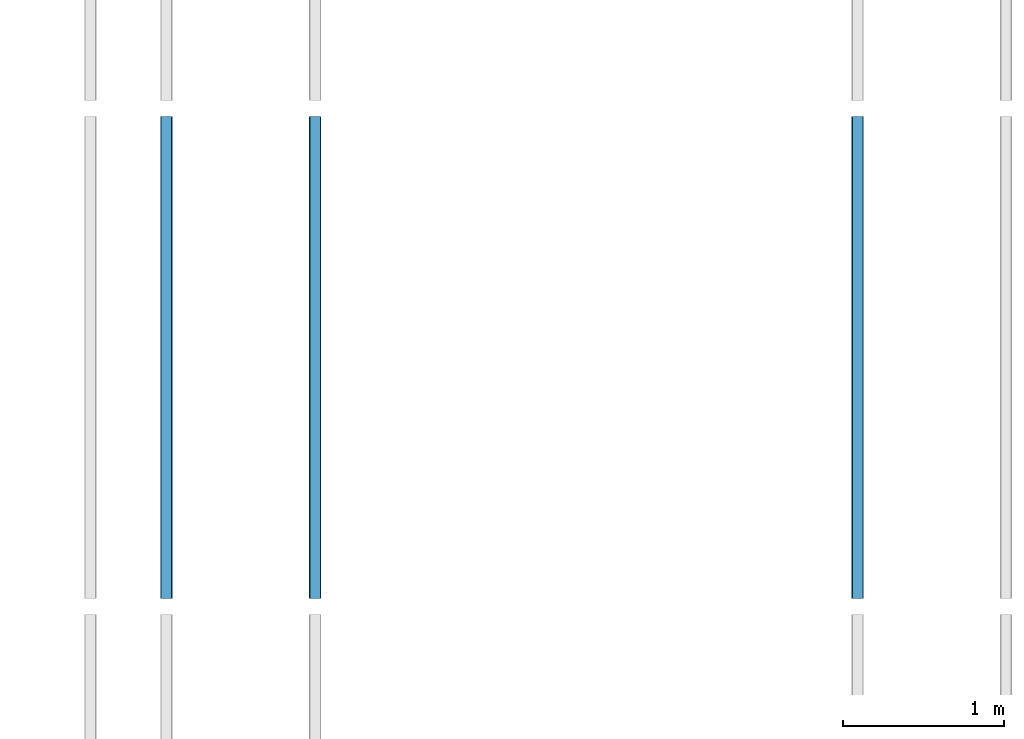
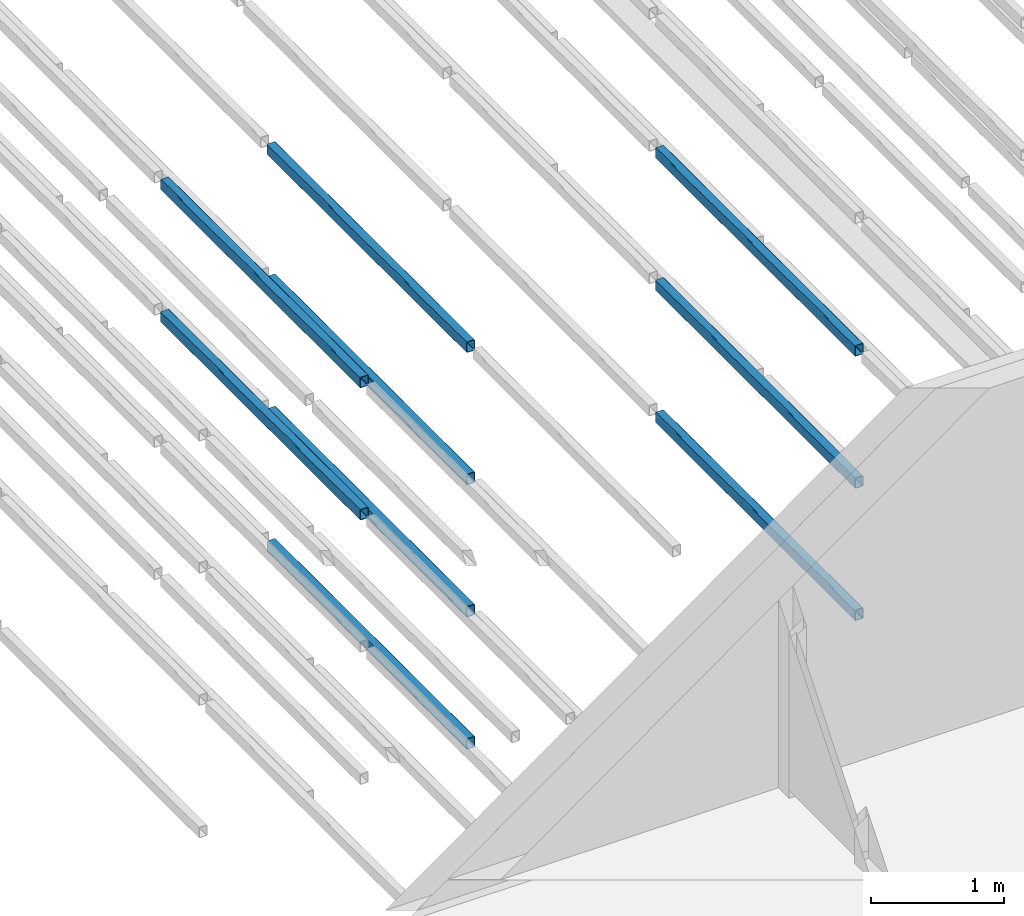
# One storey, part 30 of 290: 9 beams.
"""IFC2X3 building model written with IfcOpenShell, lengths in metres."""

from ifc_helpers import new_model, entity, si_unit, converted_unit, derived_unit, direction, frame, frame_2d, origin, place, context, subcontext, project, spatial, polyline, circle_curve, parameter, trimmed, segment, composite_curve, outline, extrude, material, type_object, element, save


model = new_model("IFC2X3")

# Units and contexts
model_context = context("Model", 3, precision=1e-05, world=origin(), true_north=direction((6.12303176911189e-17, 1.0)))
body_context = subcontext(model_context, "Body", "Model", "MODEL_VIEW")
ifc_project = project(units=[si_unit("LENGTHUNIT", "METRE"), si_unit("AREAUNIT", "SQUARE_METRE"), si_unit("VOLUMEUNIT", "CUBIC_METRE"), converted_unit("PLANEANGLEUNIT", "DEGREE", entity("IfcRatioMeasure", 0.0174532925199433), si_unit("PLANEANGLEUNIT", "RADIAN"), dimensions=[0, 0, 0, 0, 0, 0, 0]), si_unit("MASSUNIT", "GRAM", prefix="KILO"), derived_unit("MASSDENSITYUNIT", [(si_unit("MASSUNIT", "GRAM", prefix="KILO"), 1), (si_unit("LENGTHUNIT", "METRE"), -3)]), derived_unit("MOMENTOFINERTIAUNIT", [(si_unit("LENGTHUNIT", "METRE"), 4)]), si_unit("TIMEUNIT", "SECOND"), si_unit("FREQUENCYUNIT", "HERTZ"), si_unit("THERMODYNAMICTEMPERATUREUNIT", "DEGREE_CELSIUS"), derived_unit("THERMALTRANSMITTANCEUNIT", [(si_unit("MASSUNIT", "GRAM", prefix="KILO"), 1), (si_unit("THERMODYNAMICTEMPERATUREUNIT", "KELVIN"), -1), (si_unit("TIMEUNIT", "SECOND"), -3)]), derived_unit("VOLUMETRICFLOWRATEUNIT", [(si_unit("LENGTHUNIT", "METRE"), 3), (si_unit("TIMEUNIT", "SECOND"), -1)]), si_unit("ELECTRICCURRENTUNIT", "AMPERE"), si_unit("ELECTRICVOLTAGEUNIT", "VOLT"), si_unit("POWERUNIT", "WATT"), si_unit("FORCEUNIT", "NEWTON", prefix="KILO"), si_unit("ILLUMINANCEUNIT", "LUX"), si_unit("LUMINOUSFLUXUNIT", "LUMEN"), si_unit("LUMINOUSINTENSITYUNIT", "CANDELA"), derived_unit("USERDEFINED", [(si_unit("MASSUNIT", "GRAM", prefix="KILO"), -1), (si_unit("LENGTHUNIT", "METRE"), -2), (si_unit("TIMEUNIT", "SECOND"), 3), (si_unit("LUMINOUSFLUXUNIT", "LUMEN"), 1)]), derived_unit("LINEARVELOCITYUNIT", [(si_unit("LENGTHUNIT", "METRE"), 1), (si_unit("TIMEUNIT", "SECOND"), -1)]), si_unit("PRESSUREUNIT", "PASCAL"), derived_unit("USERDEFINED", [(si_unit("LENGTHUNIT", "METRE"), -2), (si_unit("MASSUNIT", "GRAM", prefix="KILO"), 1), (si_unit("TIMEUNIT", "SECOND"), -2)]), derived_unit("LINEARFORCEUNIT", [(si_unit("MASSUNIT", "GRAM", prefix="KILO"), 1), (si_unit("LENGTHUNIT", "METRE"), 1), (si_unit("TIMEUNIT", "SECOND"), -2), (si_unit("LENGTHUNIT", "METRE"), -1)]), derived_unit("PLANARFORCEUNIT", [(si_unit("MASSUNIT", "GRAM", prefix="KILO"), 1), (si_unit("LENGTHUNIT", "METRE"), 1), (si_unit("TIMEUNIT", "SECOND"), -2), (si_unit("LENGTHUNIT", "METRE"), -2)])], contexts=[model_context])

# Site, building, storey
site_placement = place(None, origin())
site = spatial("IfcSite", under=ifc_project, at=site_placement, Name="Default", CompositionType="ELEMENT")
building_placement = place(site_placement, origin())
building = spatial("IfcBuilding", under=site, at=building_placement, CompositionType="ELEMENT")
storey_placement = place(building_placement, frame((0.0, 0.0, 4.0)))
storey = spatial("IfcBuildingStorey", under=building, at=storey_placement, Name="01_OG", CompositionType="ELEMENT", Elevation=4.0)

# Beams
ifc_material = material(Name="Metall - Baustahl S235 blau")
beam_type = type_object("IfcBeamType", Name="RHS Träger (EN 10219-2):RHS 100 x 75 x 5", PredefinedType="NOTDEFINED")
beam_1_placement = place(storey_placement, frame((-183.615111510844, 27.148088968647, 1.23), z_axis=(0.0, 0.0, 1.0), x_axis=(0.0, 1.0, 0.0)))
element("IfcBeam", 1, at=beam_1_placement, inside=storey, type_object=beam_type, material=ifc_material, Name="RHS Träger (EN 10219-2):RHS 100 x 75 x 5", ObjectType="RHS Träger (EN 10219-2):RHS 100 x 75 x 5", context=body_context, shape_type="SweptSolid", body=[
    extrude(outline(composite_curve([segment(trimmed(circle_curve(frame_2d((-0.0274999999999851, -0.0399999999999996), x_axis=(1.0, 0.0)), 0.01), [parameter(180.0)], [parameter(270.0)], True, "PARAMETER"), True, "CONTINUOUS"), segment(polyline([(-0.0274999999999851, -0.0499999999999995), (0.0274999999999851, -0.0499999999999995)]), True, "CONTINUOUS"), segment(trimmed(circle_curve(frame_2d((0.0274999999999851, -0.0399999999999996), x_axis=(1.0, 0.0)), 0.01), [parameter(270.0)], [parameter(5.08888749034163e-14)], True, "PARAMETER"), True, "CONTINUOUS"), segment(polyline([(0.0375000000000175, -0.0399999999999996), (0.0375000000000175, 0.0399999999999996)]), True, "CONTINUOUS"), segment(trimmed(circle_curve(frame_2d((0.0274999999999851, 0.0399999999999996), x_axis=(1.0, 0.0)), 0.01), [parameter(360.0)], [parameter(89.9999999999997)], True, "PARAMETER"), True, "CONTINUOUS"), segment(polyline([(0.0274999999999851, 0.0500000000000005), (-0.0274999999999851, 0.0500000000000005)]), True, "CONTINUOUS"), segment(trimmed(circle_curve(frame_2d((-0.0274999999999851, 0.0399999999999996), x_axis=(1.0, 0.0)), 0.01), [parameter(90.0000000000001)], [parameter(180.0)], True, "PARAMETER"), True, "CONTINUOUS"), segment(polyline([(-0.0374999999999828, 0.0399999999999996), (-0.0374999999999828, -0.0399999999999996)]), True, "CONTINUOUS")], self_intersect=False), holes=[composite_curve([segment(polyline([(0.0274999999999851, -0.0450000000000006), (-0.0274999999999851, -0.0450000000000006)]), True, "CONTINUOUS"), segment(trimmed(circle_curve(frame_2d((-0.0274999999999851, -0.0400000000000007), x_axis=(1.0, 0.0)), 0.005), [parameter(180.0)], [parameter(270.0)], True, "PARAMETER"), False, "CONTINUOUS"), segment(polyline([(-0.0325000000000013, -0.0400000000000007), (-0.0325000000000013, 0.0399999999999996)]), True, "CONTINUOUS"), segment(trimmed(circle_curve(frame_2d((-0.0274999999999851, 0.0399999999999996), x_axis=(1.0, 0.0)), 0.005), [parameter(90.0000000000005)], [parameter(180.0)], True, "PARAMETER"), False, "CONTINUOUS"), segment(polyline([(-0.0274999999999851, 0.0449999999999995), (0.0274999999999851, 0.0449999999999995)]), True, "CONTINUOUS"), segment(trimmed(circle_curve(frame_2d((0.0274999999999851, 0.0399999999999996), x_axis=(1.0, 0.0)), 0.005), [parameter(0.0)], [parameter(90.0000000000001)], True, "PARAMETER"), False, "CONTINUOUS"), segment(polyline([(0.0325000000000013, 0.0399999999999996), (0.0325000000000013, -0.0400000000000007)]), True, "CONTINUOUS"), segment(trimmed(circle_curve(frame_2d((0.0274999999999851, -0.0400000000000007), x_axis=(1.0, 0.0)), 0.005), [parameter(270.0)], [parameter(4.07110999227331e-13)], True, "PARAMETER"), False, "CONTINUOUS")], self_intersect=False)]), frame((0.000100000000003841, 0.0375000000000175, -0.0500000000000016), z_axis=(1.0, 0.0, 0.0), x_axis=(0.0, -1.0, 0.0)), (0.0, 0.0, 1.0), 2.9998),
])
beam_2_placement = place(storey_placement, frame((-183.615111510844, 27.148088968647, 2.445), z_axis=(0.0, 0.0, 1.0), x_axis=(0.0, 1.0, 0.0)))
element("IfcBeam", 2, at=beam_2_placement, inside=storey, type_object=beam_type, material=ifc_material, Name="RHS Träger (EN 10219-2):RHS 100 x 75 x 5", ObjectType="RHS Träger (EN 10219-2):RHS 100 x 75 x 5", context=body_context, shape_type="SweptSolid", body=[
    extrude(outline(composite_curve([segment(trimmed(circle_curve(frame_2d((-0.0274999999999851, -0.0399999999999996), x_axis=(1.0, 0.0)), 0.01), [parameter(180.0)], [parameter(270.0)], True, "PARAMETER"), True, "CONTINUOUS"), segment(polyline([(-0.0274999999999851, -0.0499999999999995), (0.0274999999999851, -0.0499999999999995)]), True, "CONTINUOUS"), segment(trimmed(circle_curve(frame_2d((0.0274999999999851, -0.0399999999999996), x_axis=(1.0, 0.0)), 0.01), [parameter(270.0)], [parameter(5.08888749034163e-14)], True, "PARAMETER"), True, "CONTINUOUS"), segment(polyline([(0.0375000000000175, -0.0399999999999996), (0.0375000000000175, 0.0399999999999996)]), True, "CONTINUOUS"), segment(trimmed(circle_curve(frame_2d((0.0274999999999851, 0.0399999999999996), x_axis=(1.0, 0.0)), 0.01), [parameter(360.0)], [parameter(89.9999999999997)], True, "PARAMETER"), True, "CONTINUOUS"), segment(polyline([(0.0274999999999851, 0.0500000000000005), (-0.0274999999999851, 0.0500000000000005)]), True, "CONTINUOUS"), segment(trimmed(circle_curve(frame_2d((-0.0274999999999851, 0.0399999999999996), x_axis=(1.0, 0.0)), 0.01), [parameter(90.0000000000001)], [parameter(180.0)], True, "PARAMETER"), True, "CONTINUOUS"), segment(polyline([(-0.0374999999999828, 0.0399999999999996), (-0.0374999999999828, -0.0399999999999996)]), True, "CONTINUOUS")], self_intersect=False), holes=[composite_curve([segment(polyline([(0.0274999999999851, -0.0450000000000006), (-0.0274999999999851, -0.0450000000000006)]), True, "CONTINUOUS"), segment(trimmed(circle_curve(frame_2d((-0.0274999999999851, -0.0400000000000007), x_axis=(1.0, 0.0)), 0.005), [parameter(180.0)], [parameter(270.0)], True, "PARAMETER"), False, "CONTINUOUS"), segment(polyline([(-0.0325000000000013, -0.0400000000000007), (-0.0325000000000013, 0.0399999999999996)]), True, "CONTINUOUS"), segment(trimmed(circle_curve(frame_2d((-0.0274999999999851, 0.0399999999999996), x_axis=(1.0, 0.0)), 0.005), [parameter(90.0000000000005)], [parameter(180.0)], True, "PARAMETER"), False, "CONTINUOUS"), segment(polyline([(-0.0274999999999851, 0.0449999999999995), (0.0274999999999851, 0.0449999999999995)]), True, "CONTINUOUS"), segment(trimmed(circle_curve(frame_2d((0.0274999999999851, 0.0399999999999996), x_axis=(1.0, 0.0)), 0.005), [parameter(0.0)], [parameter(90.0000000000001)], True, "PARAMETER"), False, "CONTINUOUS"), segment(polyline([(0.0325000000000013, 0.0399999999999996), (0.0325000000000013, -0.0400000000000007)]), True, "CONTINUOUS"), segment(trimmed(circle_curve(frame_2d((0.0274999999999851, -0.0400000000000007), x_axis=(1.0, 0.0)), 0.005), [parameter(270.0)], [parameter(4.07110999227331e-13)], True, "PARAMETER"), False, "CONTINUOUS")], self_intersect=False)]), frame((0.000100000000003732, 0.0375000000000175, -0.0500000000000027), z_axis=(1.0, 0.0, 0.0), x_axis=(0.0, -1.0, 0.0)), (0.0, 0.0, 1.0), 2.9998),
])
beam_3_placement = place(storey_placement, frame((-182.765111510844, 27.148088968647, -1.2), z_axis=(0.0, 0.0, 1.0), x_axis=(0.0, 1.0, 0.0)))
element("IfcBeam", 3, at=beam_3_placement, inside=storey, type_object=beam_type, material=ifc_material, Name="RHS Träger (EN 10219-2):RHS 100 x 75 x 5", ObjectType="RHS Träger (EN 10219-2):RHS 100 x 75 x 5", context=body_context, shape_type="SweptSolid", body=[
    extrude(outline(composite_curve([segment(polyline([(-0.0400000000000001, -0.0374999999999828), (0.0400000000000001, -0.0374999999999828)]), True, "CONTINUOUS"), segment(trimmed(circle_curve(frame_2d((0.0400000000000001, -0.0274999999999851), x_axis=(0.0, 1.0)), 0.01), [parameter(180.0)], [parameter(270.0)], True, "PARAMETER"), True, "CONTINUOUS"), segment(polyline([(0.05, -0.0274999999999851), (0.05, 0.0274999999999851)]), True, "CONTINUOUS"), segment(trimmed(circle_curve(frame_2d((0.0400000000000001, 0.0274999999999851), x_axis=(0.0, 1.0)), 0.01), [parameter(270.0)], [parameter(4.07110999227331e-13)], True, "PARAMETER"), True, "CONTINUOUS"), segment(polyline([(0.0400000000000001, 0.0375000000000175), (-0.0400000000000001, 0.0375000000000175)]), True, "CONTINUOUS"), segment(trimmed(circle_curve(frame_2d((-0.0400000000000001, 0.0274999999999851), x_axis=(0.0, 1.0)), 0.01), [parameter(360.0)], [parameter(90.0000000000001)], True, "PARAMETER"), True, "CONTINUOUS"), segment(polyline([(-0.05, 0.0274999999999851), (-0.05, -0.0274999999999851)]), True, "CONTINUOUS"), segment(trimmed(circle_curve(frame_2d((-0.0400000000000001, -0.0274999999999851), x_axis=(0.0, 1.0)), 0.01), [parameter(90.0000000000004)], [parameter(180.0)], True, "PARAMETER"), True, "CONTINUOUS")], self_intersect=False), holes=[composite_curve([segment(trimmed(circle_curve(frame_2d((-0.0400000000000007, 0.0274999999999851), x_axis=(0.0, 1.0)), 0.005), [parameter(360.0)], [parameter(89.9999999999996)], True, "PARAMETER"), False, "CONTINUOUS"), segment(polyline([(-0.0400000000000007, 0.0325000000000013), (0.039999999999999, 0.0325000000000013)]), True, "CONTINUOUS"), segment(trimmed(circle_curve(frame_2d((0.039999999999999, 0.0274999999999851), x_axis=(0.0, 1.0)), 0.005), [parameter(270.0)], [parameter(0.0)], True, "PARAMETER"), False, "CONTINUOUS"), segment(polyline([(0.044999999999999, 0.0274999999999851), (0.044999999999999, -0.0274999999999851)]), True, "CONTINUOUS"), segment(trimmed(circle_curve(frame_2d((0.039999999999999, -0.0274999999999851), x_axis=(0.0, 1.0)), 0.005), [parameter(180.0)], [parameter(269.999999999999)], True, "PARAMETER"), False, "CONTINUOUS"), segment(polyline([(0.039999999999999, -0.0325000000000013), (-0.0400000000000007, -0.0325000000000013)]), True, "CONTINUOUS"), segment(trimmed(circle_curve(frame_2d((-0.0400000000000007, -0.0274999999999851), x_axis=(0.0, 1.0)), 0.005), [parameter(90.0000000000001)], [parameter(180.0)], True, "PARAMETER"), False, "CONTINUOUS"), segment(polyline([(-0.0450000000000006, -0.0274999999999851), (-0.0450000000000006, 0.0274999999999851)]), True, "CONTINUOUS")], self_intersect=False)]), frame((0.000100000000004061, -0.0375000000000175, -0.0500000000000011), z_axis=(1.0, 0.0, 0.0), x_axis=(0.0, 0.0, -1.0)), (0.0, 0.0, 1.0), 2.9998),
])
beam_4_placement = place(storey_placement, frame((-182.765111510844, 27.148088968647, 0.0150000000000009), z_axis=(0.0, 0.0, 1.0), x_axis=(0.0, 1.0, 0.0)))
element("IfcBeam", 4, at=beam_4_placement, inside=storey, type_object=beam_type, material=ifc_material, Name="RHS Träger (EN 10219-2):RHS 100 x 75 x 5", ObjectType="RHS Träger (EN 10219-2):RHS 100 x 75 x 5", context=body_context, shape_type="SweptSolid", body=[
    extrude(outline(composite_curve([segment(polyline([(-0.0400000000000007, -0.0374999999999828), (0.0399999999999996, -0.0374999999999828)]), True, "CONTINUOUS"), segment(trimmed(circle_curve(frame_2d((0.0399999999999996, -0.0274999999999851), x_axis=(0.0, 1.0)), 0.01), [parameter(180.0)], [parameter(270.0)], True, "PARAMETER"), True, "CONTINUOUS"), segment(polyline([(0.0499999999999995, -0.0274999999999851), (0.0499999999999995, 0.0274999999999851)]), True, "CONTINUOUS"), segment(trimmed(circle_curve(frame_2d((0.0399999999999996, 0.0274999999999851), x_axis=(0.0, 1.0)), 0.01), [parameter(270.0)], [parameter(4.07110999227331e-13)], True, "PARAMETER"), True, "CONTINUOUS"), segment(polyline([(0.0399999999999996, 0.0375000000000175), (-0.0400000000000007, 0.0375000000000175)]), True, "CONTINUOUS"), segment(trimmed(circle_curve(frame_2d((-0.0400000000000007, 0.0274999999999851), x_axis=(0.0, 1.0)), 0.01), [parameter(360.0)], [parameter(90.0000000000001)], True, "PARAMETER"), True, "CONTINUOUS"), segment(polyline([(-0.0500000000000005, 0.0274999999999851), (-0.0500000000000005, -0.0274999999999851)]), True, "CONTINUOUS"), segment(trimmed(circle_curve(frame_2d((-0.0400000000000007, -0.0274999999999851), x_axis=(0.0, 1.0)), 0.01), [parameter(90.0000000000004)], [parameter(180.0)], True, "PARAMETER"), True, "CONTINUOUS")], self_intersect=False), holes=[composite_curve([segment(trimmed(circle_curve(frame_2d((-0.0400000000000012, 0.0274999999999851), x_axis=(0.0, 1.0)), 0.005), [parameter(360.0)], [parameter(89.9999999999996)], True, "PARAMETER"), False, "CONTINUOUS"), segment(polyline([(-0.0400000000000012, 0.0325000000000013), (0.0399999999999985, 0.0325000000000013)]), True, "CONTINUOUS"), segment(trimmed(circle_curve(frame_2d((0.0399999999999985, 0.0274999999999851), x_axis=(0.0, 1.0)), 0.005), [parameter(270.0)], [parameter(0.0)], True, "PARAMETER"), False, "CONTINUOUS"), segment(polyline([(0.0449999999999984, 0.0274999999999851), (0.0449999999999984, -0.0274999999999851)]), True, "CONTINUOUS"), segment(trimmed(circle_curve(frame_2d((0.0399999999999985, -0.0274999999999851), x_axis=(0.0, 1.0)), 0.005), [parameter(180.0)], [parameter(269.999999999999)], True, "PARAMETER"), False, "CONTINUOUS"), segment(polyline([(0.0399999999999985, -0.0325000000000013), (-0.0400000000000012, -0.0325000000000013)]), True, "CONTINUOUS"), segment(trimmed(circle_curve(frame_2d((-0.0400000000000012, -0.0274999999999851), x_axis=(0.0, 1.0)), 0.005), [parameter(90.0000000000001)], [parameter(180.0)], True, "PARAMETER"), False, "CONTINUOUS"), segment(polyline([(-0.0450000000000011, -0.0274999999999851), (-0.0450000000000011, 0.0274999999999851)]), True, "CONTINUOUS")], self_intersect=False)]), frame((0.000100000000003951, -0.0375000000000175, -0.0500000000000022), z_axis=(1.0, 0.0, 0.0), x_axis=(0.0, 0.0, -1.0)), (0.0, 0.0, 1.0), 2.9998),
])
beam_5_placement = place(storey_placement, frame((-182.765111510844, 27.148088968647, 1.23), z_axis=(0.0, 0.0, 1.0), x_axis=(0.0, 1.0, 0.0)))
element("IfcBeam", 5, at=beam_5_placement, inside=storey, type_object=beam_type, material=ifc_material, Name="RHS Träger (EN 10219-2):RHS 100 x 75 x 5", ObjectType="RHS Träger (EN 10219-2):RHS 100 x 75 x 5", context=body_context, shape_type="SweptSolid", body=[
    extrude(outline(composite_curve([segment(polyline([(-0.0399999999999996, -0.0374999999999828), (0.0399999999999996, -0.0374999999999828)]), True, "CONTINUOUS"), segment(trimmed(circle_curve(frame_2d((0.0399999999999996, -0.0274999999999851), x_axis=(0.0, 1.0)), 0.01), [parameter(180.0)], [parameter(270.0)], True, "PARAMETER"), True, "CONTINUOUS"), segment(polyline([(0.0500000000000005, -0.0274999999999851), (0.0500000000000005, 0.0274999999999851)]), True, "CONTINUOUS"), segment(trimmed(circle_curve(frame_2d((0.0399999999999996, 0.0274999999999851), x_axis=(0.0, 1.0)), 0.01), [parameter(270.0)], [parameter(4.07110999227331e-13)], True, "PARAMETER"), True, "CONTINUOUS"), segment(polyline([(0.0399999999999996, 0.0375000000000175), (-0.0399999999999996, 0.0375000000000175)]), True, "CONTINUOUS"), segment(trimmed(circle_curve(frame_2d((-0.0399999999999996, 0.0274999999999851), x_axis=(0.0, 1.0)), 0.01), [parameter(360.0)], [parameter(90.0000000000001)], True, "PARAMETER"), True, "CONTINUOUS"), segment(polyline([(-0.0499999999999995, 0.0274999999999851), (-0.0499999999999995, -0.0274999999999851)]), True, "CONTINUOUS"), segment(trimmed(circle_curve(frame_2d((-0.0399999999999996, -0.0274999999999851), x_axis=(0.0, 1.0)), 0.01), [parameter(90.0000000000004)], [parameter(180.0)], True, "PARAMETER"), True, "CONTINUOUS")], self_intersect=False), holes=[composite_curve([segment(trimmed(circle_curve(frame_2d((-0.0400000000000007, 0.0274999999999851), x_axis=(0.0, 1.0)), 0.005), [parameter(360.0)], [parameter(89.9999999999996)], True, "PARAMETER"), False, "CONTINUOUS"), segment(polyline([(-0.0400000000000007, 0.0325000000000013), (0.0399999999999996, 0.0325000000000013)]), True, "CONTINUOUS"), segment(trimmed(circle_curve(frame_2d((0.0399999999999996, 0.0274999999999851), x_axis=(0.0, 1.0)), 0.005), [parameter(270.0)], [parameter(0.0)], True, "PARAMETER"), False, "CONTINUOUS"), segment(polyline([(0.0449999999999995, 0.0274999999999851), (0.0449999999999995, -0.0274999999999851)]), True, "CONTINUOUS"), segment(trimmed(circle_curve(frame_2d((0.0399999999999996, -0.0274999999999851), x_axis=(0.0, 1.0)), 0.005), [parameter(180.0)], [parameter(269.999999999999)], True, "PARAMETER"), False, "CONTINUOUS"), segment(polyline([(0.0399999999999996, -0.0325000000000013), (-0.0400000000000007, -0.0325000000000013)]), True, "CONTINUOUS"), segment(trimmed(circle_curve(frame_2d((-0.0400000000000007, -0.0274999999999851), x_axis=(0.0, 1.0)), 0.005), [parameter(90.0000000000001)], [parameter(180.0)], True, "PARAMETER"), False, "CONTINUOUS"), segment(polyline([(-0.0450000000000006, -0.0274999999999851), (-0.0450000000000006, 0.0274999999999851)]), True, "CONTINUOUS")], self_intersect=False)]), frame((0.000100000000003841, -0.0375000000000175, -0.0500000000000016), z_axis=(1.0, 0.0, 0.0), x_axis=(0.0, 0.0, -1.0)), (0.0, 0.0, 1.0), 2.9998),
])
beam_6_placement = place(storey_placement, frame((-182.765111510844, 27.148088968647, 2.445), z_axis=(0.0, 0.0, 1.0), x_axis=(0.0, 1.0, 0.0)))
element("IfcBeam", 6, at=beam_6_placement, inside=storey, type_object=beam_type, material=ifc_material, Name="RHS Träger (EN 10219-2):RHS 100 x 75 x 5", ObjectType="RHS Träger (EN 10219-2):RHS 100 x 75 x 5", context=body_context, shape_type="SweptSolid", body=[
    extrude(outline(composite_curve([segment(polyline([(-0.0399999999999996, -0.0374999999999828), (0.0399999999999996, -0.0374999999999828)]), True, "CONTINUOUS"), segment(trimmed(circle_curve(frame_2d((0.0399999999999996, -0.0274999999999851), x_axis=(0.0, 1.0)), 0.01), [parameter(180.0)], [parameter(270.0)], True, "PARAMETER"), True, "CONTINUOUS"), segment(polyline([(0.0500000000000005, -0.0274999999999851), (0.0500000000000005, 0.0274999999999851)]), True, "CONTINUOUS"), segment(trimmed(circle_curve(frame_2d((0.0399999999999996, 0.0274999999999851), x_axis=(0.0, 1.0)), 0.01), [parameter(270.0)], [parameter(4.07110999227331e-13)], True, "PARAMETER"), True, "CONTINUOUS"), segment(polyline([(0.0399999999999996, 0.0375000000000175), (-0.0399999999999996, 0.0375000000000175)]), True, "CONTINUOUS"), segment(trimmed(circle_curve(frame_2d((-0.0399999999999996, 0.0274999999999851), x_axis=(0.0, 1.0)), 0.01), [parameter(360.0)], [parameter(90.0000000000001)], True, "PARAMETER"), True, "CONTINUOUS"), segment(polyline([(-0.0499999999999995, 0.0274999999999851), (-0.0499999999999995, -0.0274999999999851)]), True, "CONTINUOUS"), segment(trimmed(circle_curve(frame_2d((-0.0399999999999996, -0.0274999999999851), x_axis=(0.0, 1.0)), 0.01), [parameter(90.0000000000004)], [parameter(180.0)], True, "PARAMETER"), True, "CONTINUOUS")], self_intersect=False), holes=[composite_curve([segment(trimmed(circle_curve(frame_2d((-0.0400000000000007, 0.0274999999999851), x_axis=(0.0, 1.0)), 0.005), [parameter(360.0)], [parameter(89.9999999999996)], True, "PARAMETER"), False, "CONTINUOUS"), segment(polyline([(-0.0400000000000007, 0.0325000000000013), (0.0399999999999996, 0.0325000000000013)]), True, "CONTINUOUS"), segment(trimmed(circle_curve(frame_2d((0.0399999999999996, 0.0274999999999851), x_axis=(0.0, 1.0)), 0.005), [parameter(270.0)], [parameter(0.0)], True, "PARAMETER"), False, "CONTINUOUS"), segment(polyline([(0.0449999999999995, 0.0274999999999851), (0.0449999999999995, -0.0274999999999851)]), True, "CONTINUOUS"), segment(trimmed(circle_curve(frame_2d((0.0399999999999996, -0.0274999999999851), x_axis=(0.0, 1.0)), 0.005), [parameter(180.0)], [parameter(269.999999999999)], True, "PARAMETER"), False, "CONTINUOUS"), segment(polyline([(0.0399999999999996, -0.0325000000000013), (-0.0400000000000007, -0.0325000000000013)]), True, "CONTINUOUS"), segment(trimmed(circle_curve(frame_2d((-0.0400000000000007, -0.0274999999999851), x_axis=(0.0, 1.0)), 0.005), [parameter(90.0000000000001)], [parameter(180.0)], True, "PARAMETER"), False, "CONTINUOUS"), segment(polyline([(-0.0450000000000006, -0.0274999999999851), (-0.0450000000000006, 0.0274999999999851)]), True, "CONTINUOUS")], self_intersect=False)]), frame((0.000100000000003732, -0.0375000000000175, -0.0500000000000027), z_axis=(1.0, 0.0, 0.0), x_axis=(0.0, 0.0, -1.0)), (0.0, 0.0, 1.0), 2.9998),
])
beam_7_placement = place(storey_placement, frame((-179.315111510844, 27.148088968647, -1.2), z_axis=(0.0, 0.0, 1.0), x_axis=(0.0, 1.0, 0.0)))
element("IfcBeam", 7, at=beam_7_placement, inside=storey, type_object=beam_type, material=ifc_material, Name="RHS Träger (EN 10219-2):RHS 100 x 75 x 5", ObjectType="RHS Träger (EN 10219-2):RHS 100 x 75 x 5", context=body_context, shape_type="SweptSolid", body=[
    extrude(outline(composite_curve([segment(trimmed(circle_curve(frame_2d((-0.0274999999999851, -0.0400000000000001), x_axis=(1.0, 0.0)), 0.01), [parameter(180.0)], [parameter(270.0)], True, "PARAMETER"), True, "CONTINUOUS"), segment(polyline([(-0.0274999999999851, -0.05), (0.0274999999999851, -0.05)]), True, "CONTINUOUS"), segment(trimmed(circle_curve(frame_2d((0.0274999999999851, -0.0400000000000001), x_axis=(1.0, 0.0)), 0.01), [parameter(270.0)], [parameter(5.08888749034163e-14)], True, "PARAMETER"), True, "CONTINUOUS"), segment(polyline([(0.0375000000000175, -0.0400000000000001), (0.0375000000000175, 0.0400000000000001)]), True, "CONTINUOUS"), segment(trimmed(circle_curve(frame_2d((0.0274999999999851, 0.0400000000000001), x_axis=(1.0, 0.0)), 0.01), [parameter(360.0)], [parameter(89.9999999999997)], True, "PARAMETER"), True, "CONTINUOUS"), segment(polyline([(0.0274999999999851, 0.05), (-0.0274999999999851, 0.05)]), True, "CONTINUOUS"), segment(trimmed(circle_curve(frame_2d((-0.0274999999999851, 0.0400000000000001), x_axis=(1.0, 0.0)), 0.01), [parameter(90.0000000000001)], [parameter(180.0)], True, "PARAMETER"), True, "CONTINUOUS"), segment(polyline([(-0.0374999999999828, 0.0400000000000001), (-0.0374999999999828, -0.0400000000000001)]), True, "CONTINUOUS")], self_intersect=False), holes=[composite_curve([segment(polyline([(0.0274999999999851, -0.0450000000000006), (-0.0274999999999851, -0.0450000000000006)]), True, "CONTINUOUS"), segment(trimmed(circle_curve(frame_2d((-0.0274999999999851, -0.0400000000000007), x_axis=(1.0, 0.0)), 0.005), [parameter(180.0)], [parameter(270.0)], True, "PARAMETER"), False, "CONTINUOUS"), segment(polyline([(-0.0325000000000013, -0.0400000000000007), (-0.0325000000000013, 0.039999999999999)]), True, "CONTINUOUS"), segment(trimmed(circle_curve(frame_2d((-0.0274999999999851, 0.039999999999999), x_axis=(1.0, 0.0)), 0.005), [parameter(90.0000000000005)], [parameter(180.0)], True, "PARAMETER"), False, "CONTINUOUS"), segment(polyline([(-0.0274999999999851, 0.044999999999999), (0.0274999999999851, 0.044999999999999)]), True, "CONTINUOUS"), segment(trimmed(circle_curve(frame_2d((0.0274999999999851, 0.039999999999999), x_axis=(1.0, 0.0)), 0.005), [parameter(0.0)], [parameter(90.0000000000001)], True, "PARAMETER"), False, "CONTINUOUS"), segment(polyline([(0.0325000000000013, 0.039999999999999), (0.0325000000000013, -0.0400000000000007)]), True, "CONTINUOUS"), segment(trimmed(circle_curve(frame_2d((0.0274999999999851, -0.0400000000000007), x_axis=(1.0, 0.0)), 0.005), [parameter(270.0)], [parameter(4.07110999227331e-13)], True, "PARAMETER"), False, "CONTINUOUS")], self_intersect=False)]), frame((9.99999999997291e-05, 0.0375000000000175, -0.0500000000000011), z_axis=(1.0, 0.0, 0.0), x_axis=(0.0, -1.0, 0.0)), (0.0, 0.0, 1.0), 2.9998),
])
beam_8_placement = place(storey_placement, frame((-179.315111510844, 27.148088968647, 0.0150000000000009), z_axis=(0.0, 0.0, 1.0), x_axis=(0.0, 1.0, 0.0)))
element("IfcBeam", 8, at=beam_8_placement, inside=storey, type_object=beam_type, material=ifc_material, Name="RHS Träger (EN 10219-2):RHS 100 x 75 x 5", ObjectType="RHS Träger (EN 10219-2):RHS 100 x 75 x 5", context=body_context, shape_type="SweptSolid", body=[
    extrude(outline(composite_curve([segment(trimmed(circle_curve(frame_2d((-0.0274999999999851, -0.0400000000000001), x_axis=(1.0, 0.0)), 0.01), [parameter(180.0)], [parameter(270.0)], True, "PARAMETER"), True, "CONTINUOUS"), segment(polyline([(-0.0274999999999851, -0.05), (0.0274999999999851, -0.05)]), True, "CONTINUOUS"), segment(trimmed(circle_curve(frame_2d((0.0274999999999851, -0.0400000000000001), x_axis=(1.0, 0.0)), 0.01), [parameter(270.0)], [parameter(5.08888749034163e-14)], True, "PARAMETER"), True, "CONTINUOUS"), segment(polyline([(0.0375000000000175, -0.0400000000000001), (0.0375000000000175, 0.0400000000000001)]), True, "CONTINUOUS"), segment(trimmed(circle_curve(frame_2d((0.0274999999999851, 0.0400000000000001), x_axis=(1.0, 0.0)), 0.01), [parameter(360.0)], [parameter(89.9999999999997)], True, "PARAMETER"), True, "CONTINUOUS"), segment(polyline([(0.0274999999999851, 0.05), (-0.0274999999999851, 0.05)]), True, "CONTINUOUS"), segment(trimmed(circle_curve(frame_2d((-0.0274999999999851, 0.0400000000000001), x_axis=(1.0, 0.0)), 0.01), [parameter(90.0000000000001)], [parameter(180.0)], True, "PARAMETER"), True, "CONTINUOUS"), segment(polyline([(-0.0374999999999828, 0.0400000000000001), (-0.0374999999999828, -0.0400000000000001)]), True, "CONTINUOUS")], self_intersect=False), holes=[composite_curve([segment(polyline([(0.0274999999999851, -0.0450000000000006), (-0.0274999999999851, -0.0450000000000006)]), True, "CONTINUOUS"), segment(trimmed(circle_curve(frame_2d((-0.0274999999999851, -0.0400000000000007), x_axis=(1.0, 0.0)), 0.005), [parameter(180.0)], [parameter(270.0)], True, "PARAMETER"), False, "CONTINUOUS"), segment(polyline([(-0.0325000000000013, -0.0400000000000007), (-0.0325000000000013, 0.039999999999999)]), True, "CONTINUOUS"), segment(trimmed(circle_curve(frame_2d((-0.0274999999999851, 0.039999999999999), x_axis=(1.0, 0.0)), 0.005), [parameter(90.0000000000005)], [parameter(180.0)], True, "PARAMETER"), False, "CONTINUOUS"), segment(polyline([(-0.0274999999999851, 0.044999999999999), (0.0274999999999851, 0.044999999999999)]), True, "CONTINUOUS"), segment(trimmed(circle_curve(frame_2d((0.0274999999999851, 0.039999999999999), x_axis=(1.0, 0.0)), 0.005), [parameter(0.0)], [parameter(90.0000000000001)], True, "PARAMETER"), False, "CONTINUOUS"), segment(polyline([(0.0325000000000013, 0.039999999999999), (0.0325000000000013, -0.0400000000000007)]), True, "CONTINUOUS"), segment(trimmed(circle_curve(frame_2d((0.0274999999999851, -0.0400000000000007), x_axis=(1.0, 0.0)), 0.005), [parameter(270.0)], [parameter(4.07110999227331e-13)], True, "PARAMETER"), False, "CONTINUOUS")], self_intersect=False)]), frame((9.99999999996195e-05, 0.0375000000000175, -0.0500000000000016), z_axis=(1.0, 0.0, 0.0), x_axis=(0.0, -1.0, 0.0)), (0.0, 0.0, 1.0), 2.9998),
])
beam_9_placement = place(storey_placement, frame((-179.315111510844, 27.148088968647, 1.23), z_axis=(0.0, 0.0, 1.0), x_axis=(0.0, 1.0, 0.0)))
element("IfcBeam", 9, at=beam_9_placement, inside=storey, type_object=beam_type, material=ifc_material, Name="RHS Träger (EN 10219-2):RHS 100 x 75 x 5", ObjectType="RHS Träger (EN 10219-2):RHS 100 x 75 x 5", context=body_context, shape_type="SweptSolid", body=[
    extrude(outline(composite_curve([segment(trimmed(circle_curve(frame_2d((-0.0274999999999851, -0.0399999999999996), x_axis=(1.0, 0.0)), 0.01), [parameter(180.0)], [parameter(270.0)], True, "PARAMETER"), True, "CONTINUOUS"), segment(polyline([(-0.0274999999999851, -0.0499999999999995), (0.0274999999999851, -0.0499999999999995)]), True, "CONTINUOUS"), segment(trimmed(circle_curve(frame_2d((0.0274999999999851, -0.0399999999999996), x_axis=(1.0, 0.0)), 0.01), [parameter(270.0)], [parameter(5.08888749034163e-14)], True, "PARAMETER"), True, "CONTINUOUS"), segment(polyline([(0.0375000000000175, -0.0399999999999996), (0.0375000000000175, 0.0399999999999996)]), True, "CONTINUOUS"), segment(trimmed(circle_curve(frame_2d((0.0274999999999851, 0.0399999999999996), x_axis=(1.0, 0.0)), 0.01), [parameter(360.0)], [parameter(89.9999999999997)], True, "PARAMETER"), True, "CONTINUOUS"), segment(polyline([(0.0274999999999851, 0.0500000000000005), (-0.0274999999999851, 0.0500000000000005)]), True, "CONTINUOUS"), segment(trimmed(circle_curve(frame_2d((-0.0274999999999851, 0.0399999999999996), x_axis=(1.0, 0.0)), 0.01), [parameter(90.0000000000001)], [parameter(180.0)], True, "PARAMETER"), True, "CONTINUOUS"), segment(polyline([(-0.0374999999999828, 0.0399999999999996), (-0.0374999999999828, -0.0399999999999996)]), True, "CONTINUOUS")], self_intersect=False), holes=[composite_curve([segment(polyline([(0.0274999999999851, -0.0450000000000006), (-0.0274999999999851, -0.0450000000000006)]), True, "CONTINUOUS"), segment(trimmed(circle_curve(frame_2d((-0.0274999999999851, -0.0400000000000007), x_axis=(1.0, 0.0)), 0.005), [parameter(180.0)], [parameter(270.0)], True, "PARAMETER"), False, "CONTINUOUS"), segment(polyline([(-0.0325000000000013, -0.0400000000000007), (-0.0325000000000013, 0.0399999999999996)]), True, "CONTINUOUS"), segment(trimmed(circle_curve(frame_2d((-0.0274999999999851, 0.0399999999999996), x_axis=(1.0, 0.0)), 0.005), [parameter(90.0000000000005)], [parameter(180.0)], True, "PARAMETER"), False, "CONTINUOUS"), segment(polyline([(-0.0274999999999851, 0.0449999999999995), (0.0274999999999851, 0.0449999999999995)]), True, "CONTINUOUS"), segment(trimmed(circle_curve(frame_2d((0.0274999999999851, 0.0399999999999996), x_axis=(1.0, 0.0)), 0.005), [parameter(0.0)], [parameter(90.0000000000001)], True, "PARAMETER"), False, "CONTINUOUS"), segment(polyline([(0.0325000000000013, 0.0399999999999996), (0.0325000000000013, -0.0400000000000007)]), True, "CONTINUOUS"), segment(trimmed(circle_curve(frame_2d((0.0274999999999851, -0.0400000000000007), x_axis=(1.0, 0.0)), 0.005), [parameter(270.0)], [parameter(4.07110999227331e-13)], True, "PARAMETER"), False, "CONTINUOUS")], self_intersect=False)]), frame((9.99999999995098e-05, 0.0375000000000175, -0.0500000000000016), z_axis=(1.0, 0.0, 0.0), x_axis=(0.0, -1.0, 0.0)), (0.0, 0.0, 1.0), 2.9998),
])

save(model, "model.ifc")
